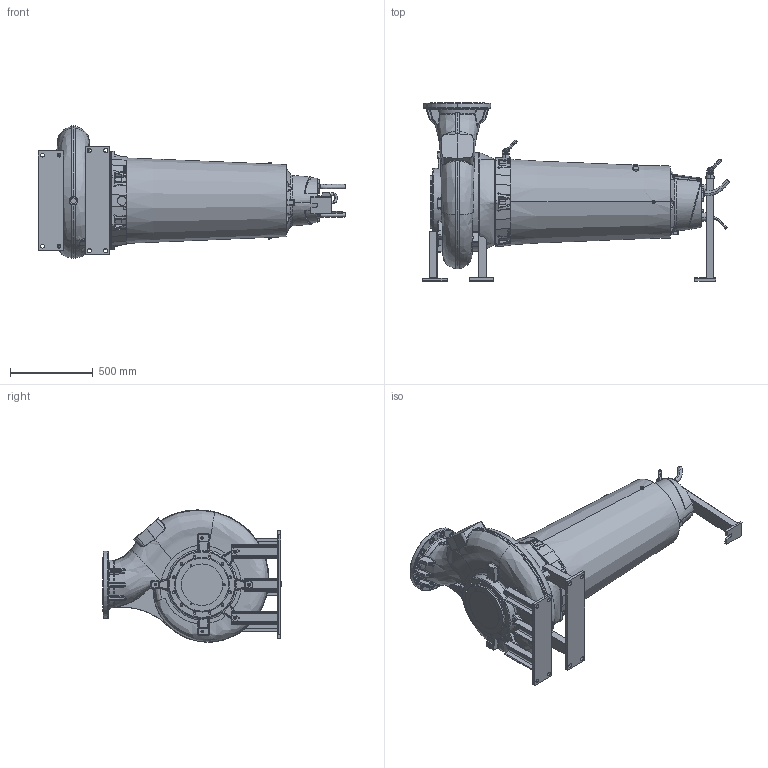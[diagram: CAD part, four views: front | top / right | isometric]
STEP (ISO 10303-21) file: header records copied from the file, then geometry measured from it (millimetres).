
FILE_DESCRIPTION (( 'STEP AP214' ), '1' );
FILE_NAME ('PE5_XFP250M-CH2_DRY HA_B_NG2.STEP', '2017-03-08T10:59:30', ( '' ), ( '' ), 'SwSTEP 2.0', 'SolidWorks 2017', '' );
FILE_SCHEMA (( 'AUTOMOTIVE_DESIGN' ));
Length unit declared in the file: millimetre
Products named in the file (1): PE5_XFP250M-CH2_DRY HA_B_NG2
Bounding box: 1856.08 x 1078.89 x 798.74 mm (x, y, z)
Volume: 359217086.7 mm3; surface area: 5121797.6 mm2
Topology: 6 solids, 18 shells, 1983 faces, 4900 edges, 2916 vertices
Faces by surface type: bspline 626, cylinder 534, plane 407, cone 211, torus 151, sphere 54
Entity records: 143541 total; most frequent: CARTESIAN_POINT 80509, ORIENTED_EDGE 9586, DIRECTION 7244, EDGE_CURVE 4793, AXIS2_PLACEMENT_3D 2953, VERTEX_POINT 2910, EDGE_LOOP 2119, UNCERTAINTY_MEASURE_WITH_UNIT 1991
